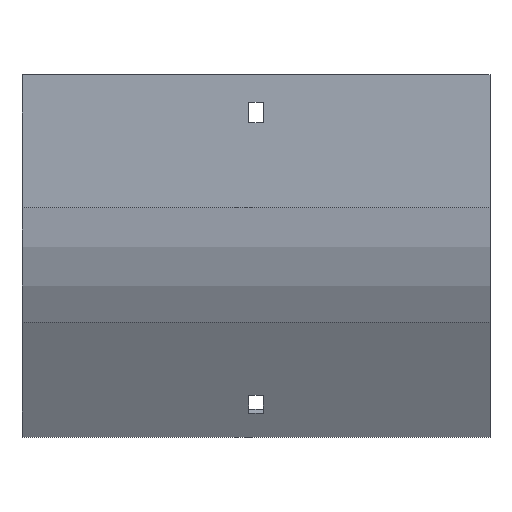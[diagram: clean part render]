
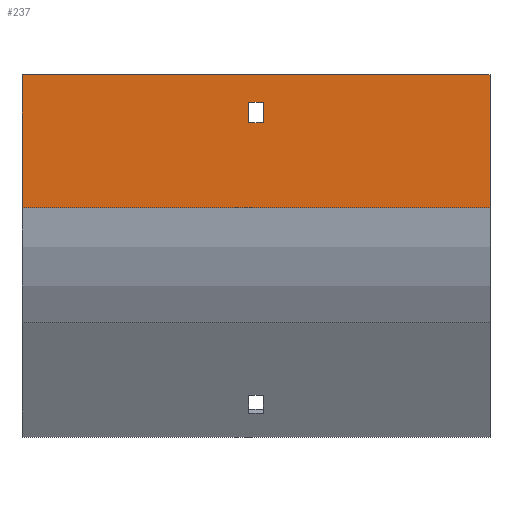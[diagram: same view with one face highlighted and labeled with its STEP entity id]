
A CAD part, front view. The second image highlights one B-rep face of the part: STEP entity #237.
In plain terms, the highlighted planar face has unit normal (0, -1, 0).
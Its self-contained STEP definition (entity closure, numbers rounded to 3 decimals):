
#15 = CARTESIAN_POINT ( 'NONE',  ( -102., -104., 0. ) ) ;
#137 = CARTESIAN_POINT ( 'NONE',  ( 102., -104., -57.867 ) ) ;
#150 = DIRECTION ( 'NONE',  ( 0., 0., -1. ) ) ;
#164 = CARTESIAN_POINT ( 'NONE',  ( -102., -104., -57.867 ) ) ;
#166 = VECTOR ( 'NONE', #1354, 1000. ) ;
#176 = ORIENTED_EDGE ( 'NONE', *, *, #1244, .T. ) ;
#237 = ADVANCED_FACE ( 'NONE', ( #1151, #1601 ), #1898, .F. ) ;
#239 = CARTESIAN_POINT ( 'NONE',  ( 102., -104., 0. ) ) ;
#243 = CARTESIAN_POINT ( 'NONE',  ( -3.25, -104., -12. ) ) ;
#258 = DIRECTION ( 'NONE',  ( 0., 1., 0. ) ) ;
#290 = CARTESIAN_POINT ( 'NONE',  ( 102., -104., -57.867 ) ) ;
#321 = ORIENTED_EDGE ( 'NONE', *, *, #919, .T. ) ;
#446 = VECTOR ( 'NONE', #851, 1000. ) ;
#477 = VERTEX_POINT ( 'NONE', #668 ) ;
#501 = VERTEX_POINT ( 'NONE', #1580 ) ;
#568 = CARTESIAN_POINT ( 'NONE',  ( 3.25, -104., -21. ) ) ;
#572 = ORIENTED_EDGE ( 'NONE', *, *, #1754, .T. ) ;
#587 = VERTEX_POINT ( 'NONE', #568 ) ;
#609 = LINE ( 'NONE', #1201, #1022 ) ;
#630 = DIRECTION ( 'NONE',  ( 0., 0., -1. ) ) ;
#663 = VERTEX_POINT ( 'NONE', #1181 ) ;
#668 = CARTESIAN_POINT ( 'NONE',  ( -3.25, -104., -12. ) ) ;
#722 = EDGE_LOOP ( 'NONE', ( #1531, #321, #1620, #572 ) ) ;
#742 = DIRECTION ( 'NONE',  ( 0., 0., 1. ) ) ;
#749 = AXIS2_PLACEMENT_3D ( 'NONE', #870, #258, #864 ) ;
#752 = LINE ( 'NONE', #1191, #1143 ) ;
#761 = DIRECTION ( 'NONE',  ( -1., 0., 0. ) ) ;
#762 = CARTESIAN_POINT ( 'NONE',  ( 3.25, -104., -21. ) ) ;
#851 = DIRECTION ( 'NONE',  ( 1., 0., 0. ) ) ;
#859 = ORIENTED_EDGE ( 'NONE', *, *, #1050, .F. ) ;
#864 = DIRECTION ( 'NONE',  ( 0., 0., 1. ) ) ;
#870 = CARTESIAN_POINT ( 'NONE',  ( 102., -104., -57.867 ) ) ;
#888 = LINE ( 'NONE', #137, #1113 ) ;
#900 = CARTESIAN_POINT ( 'NONE',  ( -3.25, -104., -21. ) ) ;
#919 = EDGE_CURVE ( 'NONE', #1859, #477, #1264, .T. ) ;
#927 = ORIENTED_EDGE ( 'NONE', *, *, #1157, .T. ) ;
#936 = EDGE_CURVE ( 'NONE', #1356, #501, #888, .T. ) ;
#970 = DIRECTION ( 'NONE',  ( -1., 0., 0. ) ) ;
#981 = LINE ( 'NONE', #239, #1115 ) ;
#1009 = EDGE_CURVE ( 'NONE', #477, #1099, #1770, .T. ) ;
#1022 = VECTOR ( 'NONE', #1385, 1000. ) ;
#1050 = EDGE_CURVE ( 'NONE', #663, #1356, #752, .T. ) ;
#1058 = VERTEX_POINT ( 'NONE', #15 ) ;
#1098 = EDGE_CURVE ( 'NONE', #587, #1859, #609, .T. ) ;
#1099 = VERTEX_POINT ( 'NONE', #1543 ) ;
#1113 = VECTOR ( 'NONE', #761, 1000. ) ;
#1115 = VECTOR ( 'NONE', #970, 1000. ) ;
#1143 = VECTOR ( 'NONE', #630, 1000. ) ;
#1151 = FACE_BOUND ( 'NONE', #722, .T. ) ;
#1157 = EDGE_CURVE ( 'NONE', #1058, #501, #1513, .T. ) ;
#1181 = CARTESIAN_POINT ( 'NONE',  ( 102., -104., 0. ) ) ;
#1191 = CARTESIAN_POINT ( 'NONE',  ( 102., -104., -57.867 ) ) ;
#1201 = CARTESIAN_POINT ( 'NONE',  ( -3.25, -104., -21. ) ) ;
#1244 = EDGE_CURVE ( 'NONE', #663, #1058, #981, .T. ) ;
#1264 = LINE ( 'NONE', #1861, #1701 ) ;
#1354 = DIRECTION ( 'NONE',  ( 0., 0., -1. ) ) ;
#1356 = VERTEX_POINT ( 'NONE', #290 ) ;
#1385 = DIRECTION ( 'NONE',  ( -1., 0., 0. ) ) ;
#1462 = EDGE_LOOP ( 'NONE', ( #927, #1663, #859, #176 ) ) ;
#1513 = LINE ( 'NONE', #164, #166 ) ;
#1531 = ORIENTED_EDGE ( 'NONE', *, *, #1098, .T. ) ;
#1543 = CARTESIAN_POINT ( 'NONE',  ( 3.25, -104., -12. ) ) ;
#1580 = CARTESIAN_POINT ( 'NONE',  ( -102., -104., -57.867 ) ) ;
#1601 = FACE_OUTER_BOUND ( 'NONE', #1462, .T. ) ;
#1620 = ORIENTED_EDGE ( 'NONE', *, *, #1009, .T. ) ;
#1663 = ORIENTED_EDGE ( 'NONE', *, *, #936, .F. ) ;
#1701 = VECTOR ( 'NONE', #742, 1000. ) ;
#1754 = EDGE_CURVE ( 'NONE', #1099, #587, #1793, .T. ) ;
#1770 = LINE ( 'NONE', #243, #446 ) ;
#1793 = LINE ( 'NONE', #762, #1950 ) ;
#1859 = VERTEX_POINT ( 'NONE', #900 ) ;
#1861 = CARTESIAN_POINT ( 'NONE',  ( -3.25, -104., -21. ) ) ;
#1898 = PLANE ( 'NONE',  #749 ) ;
#1950 = VECTOR ( 'NONE', #150, 1000. ) ;
